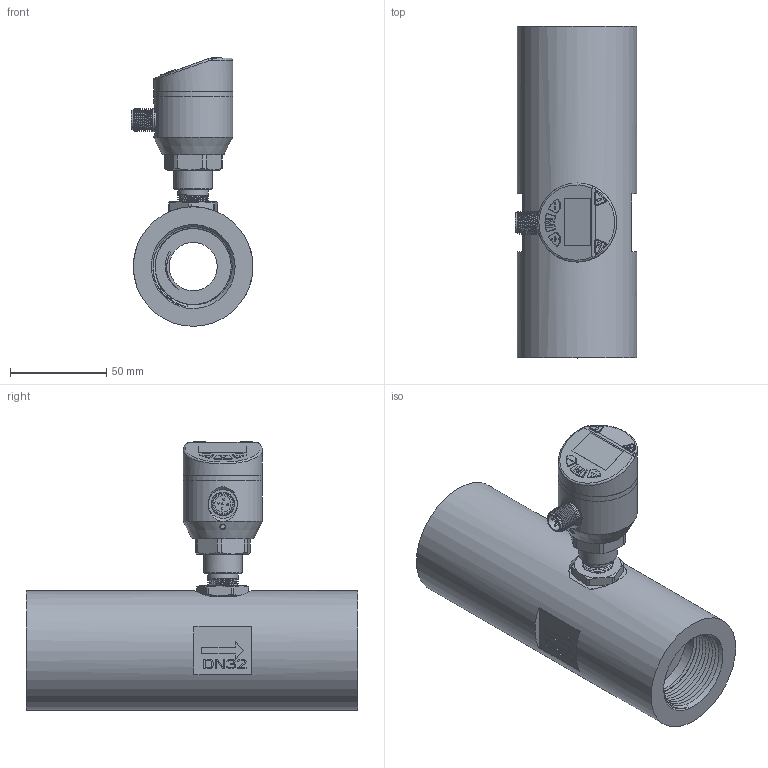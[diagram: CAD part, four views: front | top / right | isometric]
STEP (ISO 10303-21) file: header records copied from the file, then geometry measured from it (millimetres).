
FILE_DESCRIPTION( (''), '2;1');
FILE_NAME( 'QTKA_DN32_female-thread.step', '2024-01-11T15:17:36+08:00', (''), (''), '', '', '');
FILE_SCHEMA (('AUTOMOTIVE_DESIGN { 1 0 10303 214 3 1 1 1 }'));
Length unit declared in the file: millimetre
Products named in the file (1): QTKA DN32_female-thread
Bounding box: 63.2 x 172 x 139.3 mm (x, y, z)
Volume: 421934.6 mm3; surface area: 85525.7 mm2
Topology: 5 solids, 7 shells, 589 faces, 1482 edges, 951 vertices
Faces by surface type: plane 293, cylinder 142, bspline 60, cone 49, torus 39, sphere 6
Full cylindrical faces by diameter (mm): 1 x5, 2.7 x4, 8.4 x1, 9.7 x1, 9.8 x1, 10.1 x1, 11.6 x1, 12 x1, 15 x1, 15.9 x1, 20 x1, 23 x3, 25 x1, 26 x4, 26.1 x1, 37 x1, 39.5 x2, 41 x3, 62 x1
Entity records: 35758 total; most frequent: CARTESIAN_POINT 21007, ORIENTED_EDGE 2754, DIRECTION 2572, EDGE_CURVE 1377, VERTEX_POINT 906, AXIS2_PLACEMENT_3D 895, LINE 782, VECTOR 782
